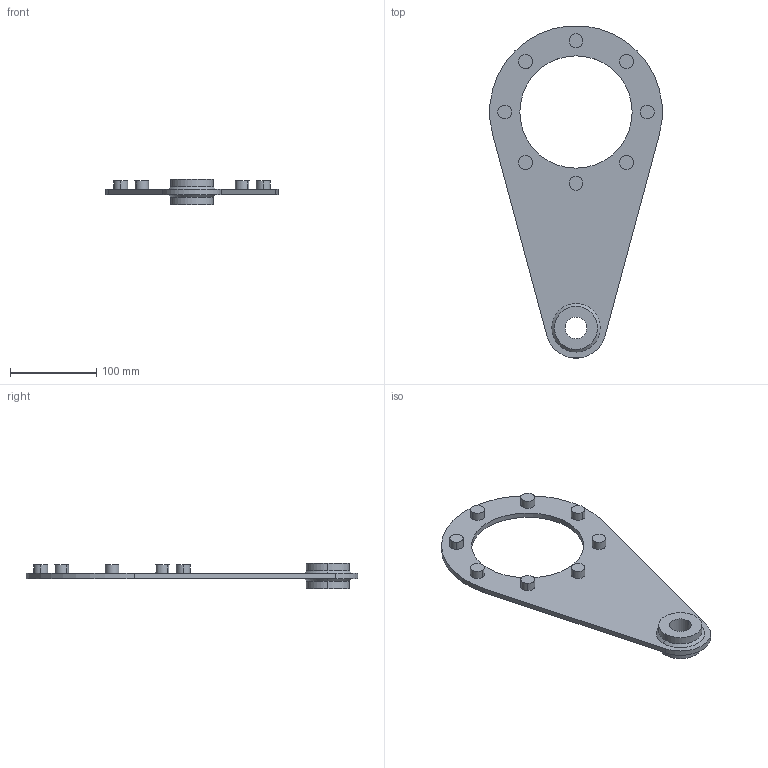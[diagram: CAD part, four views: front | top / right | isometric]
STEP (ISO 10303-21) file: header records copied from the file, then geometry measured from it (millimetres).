
FILE_DESCRIPTION(/* description */ (''),/* implementation_level */ '2;1');
FILE_NAME(/* name */ '6_BRACCIO DI REAZIONE NMRV-P110',/* time_stamp */ '2025-10-09T15:39:29+02:00',/* author */ (''),/* organization */ (''),/* preprocessor_version */ 'ST-DEVELOPER v19.2',/* originating_system */ 'Rhino 8.23',/* authorisation */ '');
FILE_SCHEMA (('CONFIG_CONTROL_DESIGN'));
Length unit declared in the file: millimetre
Products named in the file (2): Document; 110-250-p
Bounding box: 199.26 x 384.49 x 30 mm (x, y, z)
Volume: 285522.6 mm3; surface area: 95248.6 mm2
Topology: 1 solids, 1 shells, 44 faces, 100 edges, 68 vertices
Faces by surface type: cylinder 26, plane 14, bspline 4
Entity records: 1604 total; most frequent: CARTESIAN_POINT 416, ORIENTED_EDGE 200, DIRECTION 176, AXIS2_PLACEMENT_3D 108, EDGE_CURVE 100, VERTEX_POINT 68, TRIMMED_CURVE 64, CIRCLE 64
